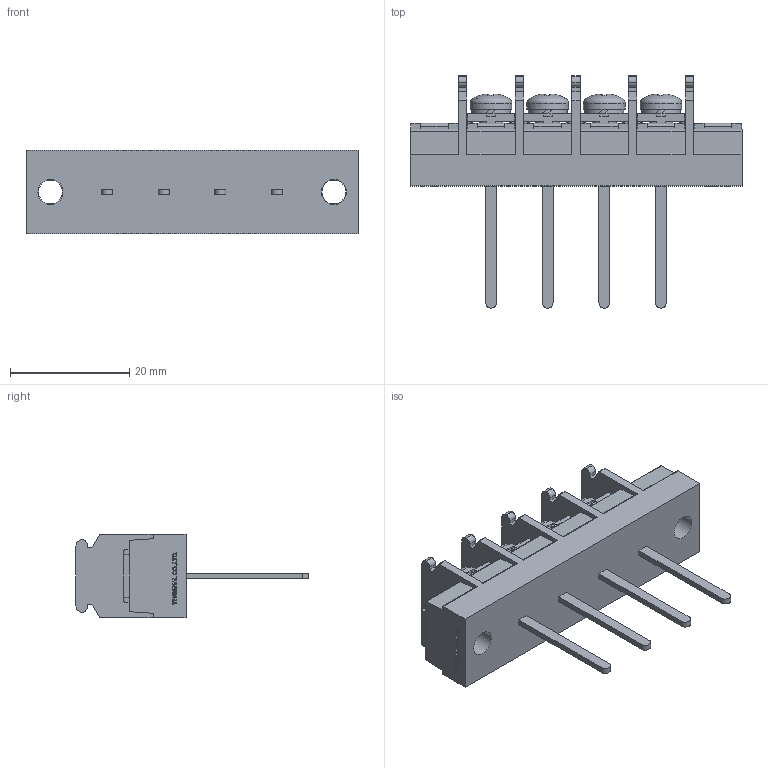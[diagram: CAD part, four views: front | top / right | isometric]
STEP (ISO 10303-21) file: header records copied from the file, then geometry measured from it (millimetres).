
FILE_DESCRIPTION(/* description */ ('Alibre Inc.'),/* implementation_level */ '2;1');
FILE_NAME(/* name */ 'export-F4C167B7-5740-46D4-8352-F4BC80405CC1',/* time_stamp */ '2021-02-13T17:30:57+09:00',/* author */ (''),/* organization */ (''),/* preprocessor_version */ 'ST-DEVELOPER v17',/* originating_system */ 'Alibre',/* authorisation */ '');
FILE_SCHEMA (('CONFIG_CONTROL_DESIGN'));
Length unit declared in the file: millimetre
Bounding box: 55.7 x 39 x 14 mm (x, y, z)
Volume: 8791 mm3; surface area: 6247.1 mm2
Topology: 1 solids, 21 shells, 918 faces, 2526 edges, 1666 vertices
Faces by surface type: plane 678, cylinder 104, bspline 104, cone 20, torus 8, sphere 4
Full cylindrical faces by diameter (mm): 4 x10, 4.2 x2, 7 x4
Entity records: 27871 total; most frequent: CARTESIAN_POINT 6020, ORIENTED_EDGE 4976, DIRECTION 3428, EDGE_CURVE 2488, VECTOR 1842, LINE 1842, VERTEX_POINT 1656, AXIS2_PLACEMENT_3D 1114
